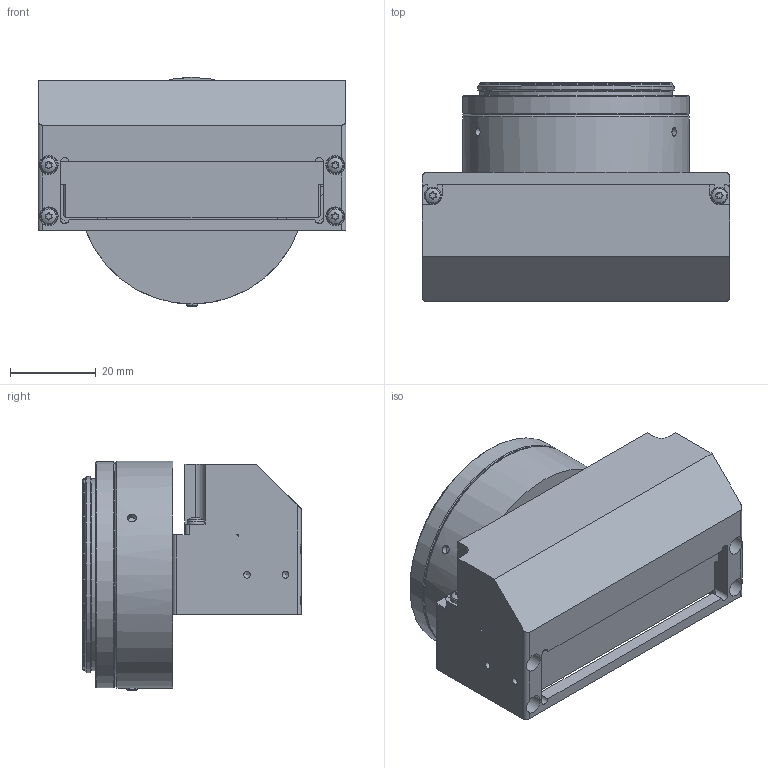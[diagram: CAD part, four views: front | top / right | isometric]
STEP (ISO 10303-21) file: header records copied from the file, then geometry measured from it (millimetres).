
FILE_DESCRIPTION(/* description */ (''),/* implementation_level */ '2;1');
FILE_NAME(/* name */ '0703-107-824-00_d',/* time_stamp */ '2011-06-15T09:01:09+02:00',/* author */ (''),/* organization */ (''),/* preprocessor_version */ 'ST-DEVELOPER v9',/* originating_system */ 'UGS - NX 4.0',/* authorisation */ '');
FILE_SCHEMA (('AUTOMOTIVE_DESIGN { 1 0 10303 214 1 1 1 1 }'));
Length unit declared in the file: millimetre
Products named in the file (1): kueh28EAtd3z
Bounding box: 72 x 51.1 x 53.6 mm (x, y, z)
Volume: 100635.3 mm3; surface area: 23389.4 mm2
Topology: 10 solids, 11 shells, 437 faces, 1163 edges, 763 vertices
Faces by surface type: plane 224, cylinder 154, cone 41, torus 12, sphere 6
Full cylindrical faces by diameter (mm): 1.2 x3, 1.567 x10, 2 x6, 2.013 x3, 2.4 x4, 2.5 x3, 3.242 x2, 4.4 x4, 45 x2, 46 x1, 53 x2
Entity records: 14503 total; most frequent: CARTESIAN_POINT 4060, DIRECTION 2151, ORIENTED_EDGE 2014, EDGE_CURVE 1007, AXIS2_PLACEMENT_3D 792, VERTEX_POINT 719, LINE 567, VECTOR 567
